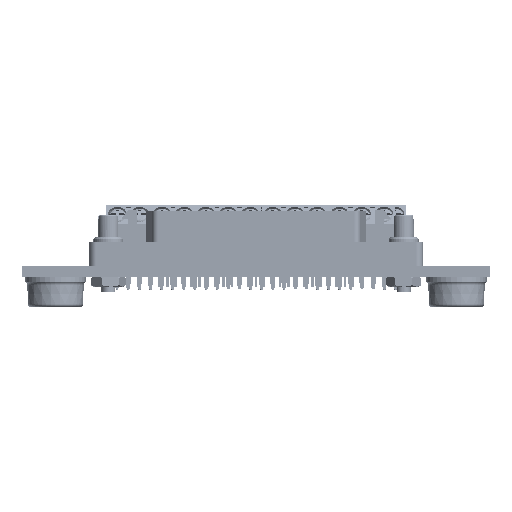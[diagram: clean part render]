
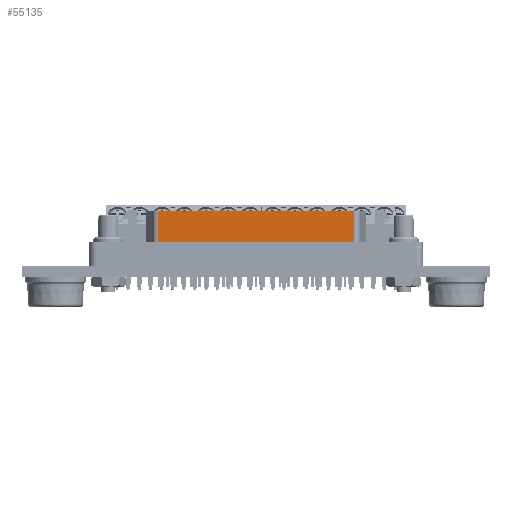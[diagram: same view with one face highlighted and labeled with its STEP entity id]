
A CAD part, left-side view. The second image highlights one B-rep face of the part: STEP entity #55135.
In plain terms, the highlighted planar face has unit normal (-1, 0, 0) as drawn and (0, -1, 0) by its records, which use the part's own axes.
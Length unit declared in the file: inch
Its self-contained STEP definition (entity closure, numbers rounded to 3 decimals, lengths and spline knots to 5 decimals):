
#6532 = EDGE_LOOP ( 'NONE', ( #105825, #100521, #168248, #98864 ) ) ;
#6694 = DIRECTION ( 'NONE',  ( 0., 0., -1. ) ) ;
#11134 = EDGE_CURVE ( 'NONE', #41464, #105120, #62161, .T. ) ;
#21065 = CARTESIAN_POINT ( 'NONE',  ( 0., -0.109, -0.193 ) ) ;
#21994 = CARTESIAN_POINT ( 'NONE',  ( 0.60649, -0.109, 0. ) ) ;
#29289 = DIRECTION ( 'NONE',  ( 0., 0., -1. ) ) ;
#36130 = CARTESIAN_POINT ( 'NONE',  ( -0.60649, -0.109, 0. ) ) ;
#41464 = VERTEX_POINT ( 'NONE', #140365 ) ;
#43141 = EDGE_CURVE ( 'NONE', #48218, #89718, #217694, .T. ) ;
#48218 = VERTEX_POINT ( 'NONE', #184338 ) ;
#55135 = ADVANCED_FACE ( 'NONE', ( #203196 ), #125096, .T. ) ;
#62161 = LINE ( 'NONE', #98098, #188430 ) ;
#64610 = EDGE_CURVE ( 'NONE', #105120, #89718, #152818, .T. ) ;
#72480 = DIRECTION ( 'NONE',  ( -1., 0., 0. ) ) ;
#74367 = CARTESIAN_POINT ( 'NONE',  ( -0.60649, -0.109, 0. ) ) ;
#77093 = CARTESIAN_POINT ( 'NONE',  ( -0.60649, -0.109, 0. ) ) ;
#89698 = VECTOR ( 'NONE', #29289, 39.37008 ) ;
#89718 = VERTEX_POINT ( 'NONE', #211623 ) ;
#98098 = CARTESIAN_POINT ( 'NONE',  ( -0.60649, -0.109, 0. ) ) ;
#98864 = ORIENTED_EDGE ( 'NONE', *, *, #11134, .T. ) ;
#100521 = ORIENTED_EDGE ( 'NONE', *, *, #43141, .F. ) ;
#105120 = VERTEX_POINT ( 'NONE', #36130 ) ;
#105825 = ORIENTED_EDGE ( 'NONE', *, *, #64610, .T. ) ;
#115800 = VECTOR ( 'NONE', #139591, 39.37008 ) ;
#118760 = AXIS2_PLACEMENT_3D ( 'NONE', #74367, #123658, #6694 ) ;
#123658 = DIRECTION ( 'NONE',  ( 0., -1., 0. ) ) ;
#125096 = PLANE ( 'NONE',  #118760 ) ;
#139591 = DIRECTION ( 'NONE',  ( 0., 0., 1. ) ) ;
#140365 = CARTESIAN_POINT ( 'NONE',  ( 0.60649, -0.109, 0. ) ) ;
#150285 = DIRECTION ( 'NONE',  ( -1., 0., 0. ) ) ;
#152818 = LINE ( 'NONE', #77093, #89698 ) ;
#160572 = LINE ( 'NONE', #21994, #115800 ) ;
#168248 = ORIENTED_EDGE ( 'NONE', *, *, #195385, .T. ) ;
#184338 = CARTESIAN_POINT ( 'NONE',  ( 0.60649, -0.109, -0.193 ) ) ;
#188430 = VECTOR ( 'NONE', #150285, 39.37008 ) ;
#195385 = EDGE_CURVE ( 'NONE', #48218, #41464, #160572, .T. ) ;
#203196 = FACE_OUTER_BOUND ( 'NONE', #6532, .T. ) ;
#207159 = VECTOR ( 'NONE', #72480, 39.37008 ) ;
#211623 = CARTESIAN_POINT ( 'NONE',  ( -0.60649, -0.109, -0.193 ) ) ;
#217694 = LINE ( 'NONE', #21065, #207159 ) ;
